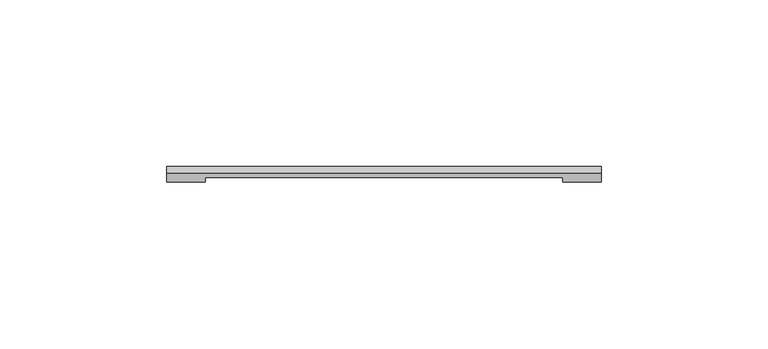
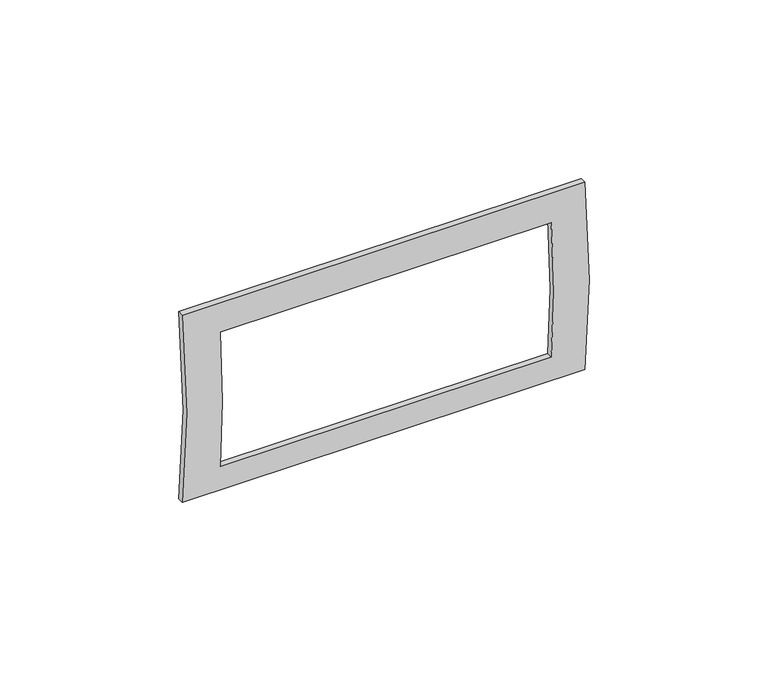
"""IFC4 building model written with IfcOpenShell, lengths in millimetres: proxy geometry, КНС_РамкаУниверсальная_ILF_DKC : 4 модуля."""

from ifc_helpers import new_model, si_unit, frame, origin, place, context, project, spatial, polyline, circle_curve, source, transform, mapped, element, save
from ifc_brep_helpers import plane_surface, cylinder_surface, revolved_surface, advanced_brep


def electrical_fixtures_da566cea(model_context):
    return source(origin(), model_context, "Body", "AdvancedBrep", [
        advanced_brep(
        [(65.0, -2.0, 31.9768143), (65.0, -2.0, -31.9768143), (65.0, 0.0, -31.9768143), (65.0, 0.0, 31.9768143), (-65.0, -2.0, 31.9768143), (-65.0, 0.0, 31.9768143), (-65.0, 0.0, -31.9768143), (-65.0, -2.0, -31.9768143), (53.5, -3.2414184, 22.9768143), (53.5, -3.2414184, -22.9768143), (-53.5, -3.2414184, -22.9768143), (-53.5, -3.2414184, 22.9768143), (53.5, -1.2414184, -22.9768143), (53.5, -1.2414184, 22.9768143), (-53.5, -1.2414184, 22.9768143), (-53.5, -1.2414184, -22.9768143)],
        [
            (0, 1, circle_curve(frame((65.0, 196.5799224, 0.0), z_axis=(1.0, 0.0, 0.0), x_axis=(0.0, 1.0, 0.0)), 201.1380178)),
            (1, 2),
            (2, 3, circle_curve(frame((65.0, 198.5799224, 0.0), z_axis=(-1.0, 0.0, 0.0), x_axis=(0.0, 1.0, 0.0)), 201.1380178)),
            (3, 0),
            (4, 5),
            (5, 6, circle_curve(frame((-65.0, 198.5799224, 0.0), z_axis=(1.0, 0.0, 0.0), x_axis=(0.0, 1.0, 0.0)), 201.1380178)),
            (6, 7),
            (7, 4, circle_curve(frame((-65.0, 196.5799224, 0.0), z_axis=(-1.0, 0.0, 0.0), x_axis=(0.0, 1.0, 0.0)), 201.1380178)),
            (0, 4),
            (7, 1),
            (8, 9, circle_curve(frame((53.5, 196.5799224, 0.0), z_axis=(1.0, 0.0, 0.0), x_axis=(0.0, 1.0, 0.0)), 201.1380178)),
            (9, 10),
            (10, 11, circle_curve(frame((-53.5, 196.5799224, 0.0), z_axis=(-1.0, 0.0, 0.0), x_axis=(0.0, 1.0, 0.0)), 201.1380178)),
            (11, 8),
            (6, 2),
            (5, 3),
            (12, 13, circle_curve(frame((53.5, 198.5799224, 0.0), z_axis=(-1.0, 0.0, 0.0), x_axis=(0.0, 1.0, 0.0)), 201.1380178)),
            (13, 14),
            (14, 15, circle_curve(frame((-53.5, 198.5799224, 0.0), z_axis=(1.0, 0.0, 0.0), x_axis=(0.0, 1.0, 0.0)), 201.1380178)),
            (15, 12),
            (8, 13),
            (12, 9),
            (10, 15),
            (14, 11),
        ],
        [
            plane_surface(frame((65.0, 397.7179402, 0.0), z_axis=(1.0, 0.0, 0.0), x_axis=(0.0, 0.0, 1.0))),
            plane_surface(frame((-65.0, 397.7179402, 0.0), z_axis=(-1.0, 0.0, 0.0), x_axis=(0.0, 0.0, -1.0))),
            cylinder_surface(frame((-65.0, 196.5799224, 0.0), z_axis=(1.0, 0.0, 0.0), x_axis=(0.0, 1.0, 0.0)), 201.1380178),
            plane_surface(frame((65.0, -2.0, -31.9768143), z_axis=(0.0, 0.0, -1.0), x_axis=(-1.0, 0.0, 0.0))),
            revolved_surface(polyline([(-65.0, 399.7179402, 0.0), (65.0, 399.7179402, 0.0)]), (-65.0, 198.5799224, 0.0), (-1.0, 0.0, 0.0)),
            plane_surface(frame((65.0, 0.0, 31.9768143), z_axis=(0.0, 0.0, 1.0), x_axis=(-1.0, 0.0, 0.0))),
            plane_surface(frame((53.5, 397.7179402, 0.0), z_axis=(-1.0, 0.0, 0.0), x_axis=(0.0, 0.0, 1.0))),
            plane_surface(frame((-53.5, 397.7179402, 0.0), z_axis=(1.0, 0.0, 0.0), x_axis=(0.0, 0.0, -1.0))),
            plane_surface(frame((53.5, -1.2414184, 22.9768143), z_axis=(0.0, 0.0, -1.0), x_axis=(-1.0, 0.0, 0.0))),
            plane_surface(frame((53.5, -3.2414184, -22.9768143), z_axis=(0.0, 0.0, 1.0), x_axis=(-1.0, 0.0, 0.0))),
        ],
        [
            (0, [[1, 2, 3, 4]]),
            (1, [[5, 6, 7, 8]]),
            (2, [[-1, 9, -8, 10], [11, 12, 13, 14]]),
            (3, [[-2, -10, -7, 15]]),
            (4, [[-3, -15, -6, 16], [17, 18, 19, 20]]),
            (5, [[-4, -16, -5, -9]]),
            (6, [[21, -17, 22, -11]]),
            (7, [[23, -19, 24, -13]]),
            (8, [[-21, -14, -24, -18]]),
            (9, [[-22, -20, -23, -12]]),
        ],
    ),
    ])


if __name__ == "__main__":
    model = new_model("IFC4")
    model_context = context("Model", 3, world=origin())
    ifc_project = project(units=[si_unit("LENGTHUNIT", "METRE", prefix="MILLI")], contexts=[model_context])
    site = spatial("IfcSite", under=ifc_project)
    building = spatial("IfcBuilding", under=site)
    placement = place(None, origin())
    electrical_fixtures_shape = electrical_fixtures_da566cea(model_context)
    element("IfcBuildingElementProxy", 1, Name="КНС_РамкаУниверсальная_ILF_DKC : 4 модуля", ObjectType="КНС_РамкаУниверсальная_ILF_DKC : 4 модуля", at=placement, inside=building, context=model_context, shape_type="MappedRepresentation", body=[
        mapped(electrical_fixtures_shape, transform((0.0, 0.0, 0.0), x_axis=(1.0, 0.0, 0.0), y_axis=(0.0, 1.0, 0.0), z_axis=(0.0, 0.0, 1.0))),
    ])
    save(model, "model.ifc")
